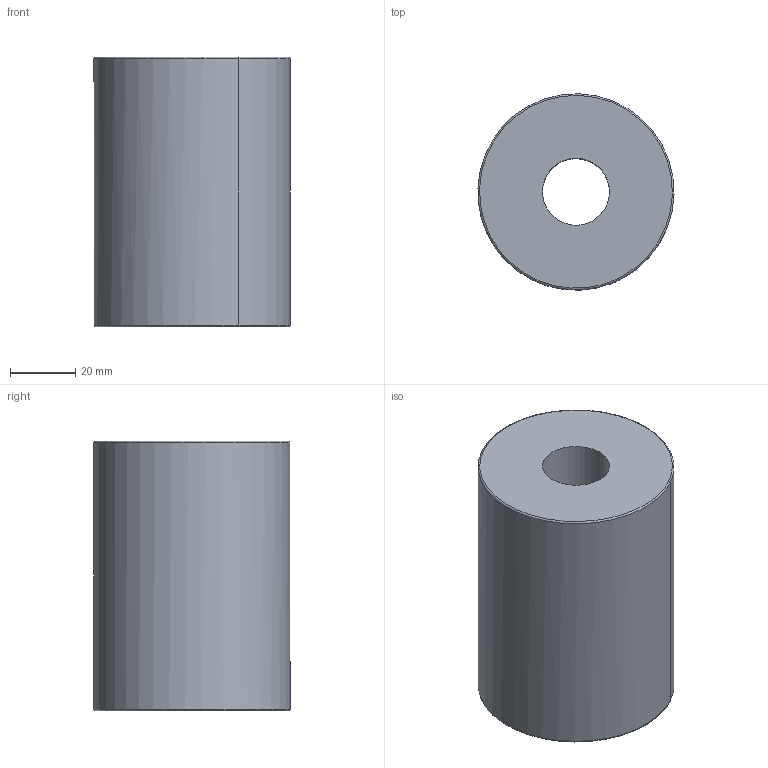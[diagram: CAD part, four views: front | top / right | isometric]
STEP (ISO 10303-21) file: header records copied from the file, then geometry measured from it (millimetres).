
FILE_DESCRIPTION(('CATIA V5 STEP Exchange'),'2;1');
FILE_NAME('X:\CODICI MOVEX\3D per clienti\3D definitivi\Part 200\P20203_01.stp','2016-09-30T06:04:55+00:00',('none'),('none'),'Version 5-6 Release 2012','CATIA V5 STEP AP203','none');
FILE_SCHEMA(('CONFIG_CONTROL_DESIGN'));
Length unit declared in the file: millimetre
Products named in the file (1): P20203_01
Bounding box: 59.97 x 59.98 x 82.5 mm (x, y, z)
Volume: 66603.8 mm3; surface area: 50944.6 mm2
Topology: 1 solids, 2 shells, 163 faces, 349 edges, 192 vertices
Faces by surface type: torus 69, cylinder 40, cone 32, plane 14, bspline 8
Entity records: 4822 total; most frequent: CARTESIAN_POINT 1502, ORIENTED_EDGE 698, DIRECTION 586, AXIS2_PLACEMENT_3D 353, EDGE_CURVE 349, CIRCLE 210, VERTEX_POINT 192, EDGE_LOOP 169
